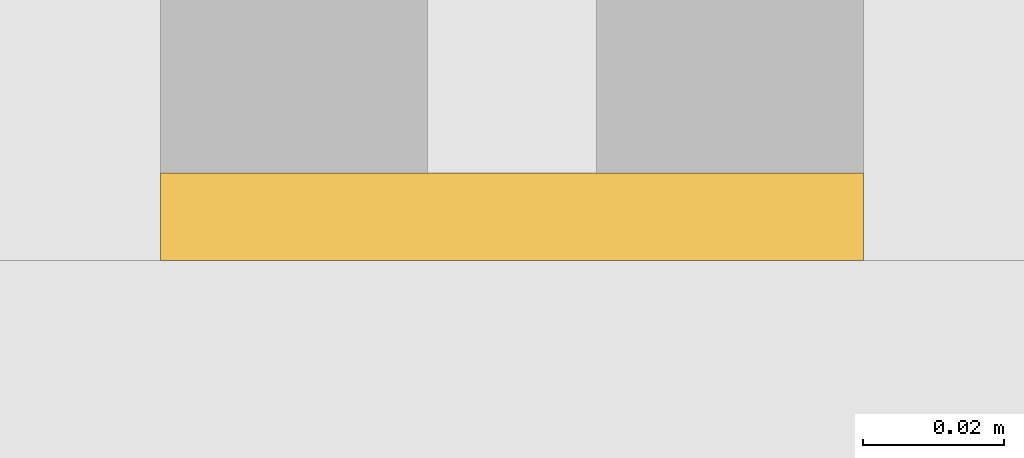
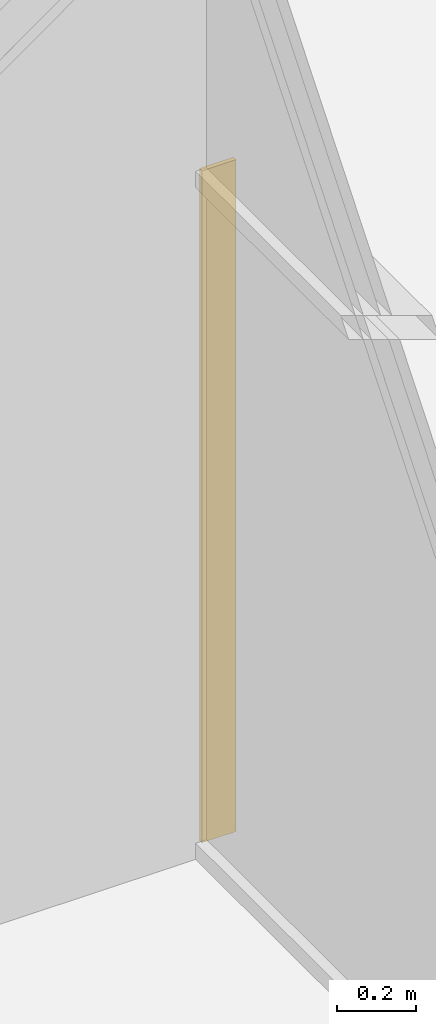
# One storey, part 77 of 100: 1 curtain wall, 1 opening, 1 element without a shape of its own.
"""IFC2X3 building model written with IfcOpenShell, lengths in millimetres."""

from ifc_helpers import new_model, entity, si_unit, converted_unit, derived_unit, direction, frame, frame_2d, origin, place, context, subcontext, project, spatial, rectangle, extrude, material, layer, layer_set, layer_usage, type_object, element, aggregate, save


model = new_model("IFC2X3")

# Units and contexts
model_context = context("Model", 3, precision=0.01, world=origin(), true_north=direction((6.123031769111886e-17, 1.0)))
body_context = subcontext(model_context, "Body", "Model", "MODEL_VIEW")
ifc_project = project(units=[si_unit("LENGTHUNIT", "METRE", prefix="MILLI"), si_unit("AREAUNIT", "SQUARE_METRE"), si_unit("VOLUMEUNIT", "CUBIC_METRE"), converted_unit("PLANEANGLEUNIT", "DEGREE", entity("IfcRatioMeasure", 0.017453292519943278), si_unit("PLANEANGLEUNIT", "RADIAN"), dimensions=[0, 0, 0, 0, 0, 0, 0]), si_unit("MASSUNIT", "GRAM", prefix="KILO"), derived_unit("MASSDENSITYUNIT", [(si_unit("MASSUNIT", "GRAM", prefix="KILO"), 1), (si_unit("LENGTHUNIT", "METRE"), -3)]), derived_unit("MOMENTOFINERTIAUNIT", [(si_unit("LENGTHUNIT", "METRE"), 4)]), si_unit("TIMEUNIT", "SECOND"), si_unit("FREQUENCYUNIT", "HERTZ"), si_unit("THERMODYNAMICTEMPERATUREUNIT", "DEGREE_CELSIUS"), derived_unit("THERMALTRANSMITTANCEUNIT", [(si_unit("MASSUNIT", "GRAM", prefix="KILO"), 1), (si_unit("THERMODYNAMICTEMPERATUREUNIT", "KELVIN"), -1), (si_unit("TIMEUNIT", "SECOND"), -3)]), derived_unit("VOLUMETRICFLOWRATEUNIT", [(si_unit("LENGTHUNIT", "METRE"), 3), (si_unit("TIMEUNIT", "SECOND"), -1)]), derived_unit("MASSFLOWRATEUNIT", [(si_unit("MASSUNIT", "GRAM", prefix="KILO"), 1), (si_unit("TIMEUNIT", "SECOND"), -1)]), derived_unit("ROTATIONALFREQUENCYUNIT", [(si_unit("TIMEUNIT", "SECOND"), -1)]), si_unit("ELECTRICCURRENTUNIT", "AMPERE"), si_unit("ELECTRICVOLTAGEUNIT", "VOLT"), si_unit("POWERUNIT", "WATT"), si_unit("FORCEUNIT", "NEWTON", prefix="KILO"), si_unit("ILLUMINANCEUNIT", "LUX"), si_unit("LUMINOUSFLUXUNIT", "LUMEN"), si_unit("LUMINOUSINTENSITYUNIT", "CANDELA"), derived_unit("USERDEFINED", [(si_unit("MASSUNIT", "GRAM", prefix="KILO"), -1), (si_unit("LENGTHUNIT", "METRE"), -2), (si_unit("TIMEUNIT", "SECOND"), 3), (si_unit("LUMINOUSFLUXUNIT", "LUMEN"), 1)]), derived_unit("SOUNDPOWERUNIT", [(si_unit("MASSUNIT", "GRAM", prefix="KILO"), 1), (si_unit("LENGTHUNIT", "METRE"), 2), (si_unit("TIMEUNIT", "SECOND"), -3)]), derived_unit("SOUNDPRESSUREUNIT", [(si_unit("MASSUNIT", "GRAM", prefix="KILO"), 1), (si_unit("LENGTHUNIT", "METRE"), -1), (si_unit("TIMEUNIT", "SECOND"), -2)]), derived_unit("LINEARVELOCITYUNIT", [(si_unit("LENGTHUNIT", "METRE"), 1), (si_unit("TIMEUNIT", "SECOND"), -1)]), si_unit("PRESSUREUNIT", "PASCAL"), derived_unit("USERDEFINED", [(si_unit("LENGTHUNIT", "METRE"), -2), (si_unit("MASSUNIT", "GRAM", prefix="KILO"), 1), (si_unit("TIMEUNIT", "SECOND"), -2)]), derived_unit("LINEARFORCEUNIT", [(si_unit("MASSUNIT", "GRAM", prefix="KILO"), 1), (si_unit("LENGTHUNIT", "METRE"), 1), (si_unit("TIMEUNIT", "SECOND"), -2), (si_unit("LENGTHUNIT", "METRE"), -1)]), derived_unit("PLANARFORCEUNIT", [(si_unit("MASSUNIT", "GRAM", prefix="KILO"), 1), (si_unit("LENGTHUNIT", "METRE"), 1), (si_unit("TIMEUNIT", "SECOND"), -2), (si_unit("LENGTHUNIT", "METRE"), -2)])], contexts=[model_context])

# Site, building, storey
site_placement = place(None, frame((-14167.972527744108, -657.2125860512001, 0.0)))
site = spatial("IfcSite", under=ifc_project, at=site_placement, Name="Default", CompositionType="ELEMENT")
building_placement = place(site_placement, origin())
building = spatial("IfcBuilding", under=site, at=building_placement, Name="Sample Building", CompositionType="ELEMENT")
storey_placement = place(building_placement, origin())
storey = spatial("IfcBuildingStorey", under=building, at=storey_placement, Name="지상 1층", CompositionType="ELEMENT", Elevation=0.0)

# Curtain walls, opening
curtain_wall_type_1 = type_object("IfcCurtainWallType", Name="커튼월:CW112-스테인리스 스틸 커튼월", PredefinedType="NOTDEFINED")
curtain_wall_1_placement = place(storey_placement, origin())
curtain_wall_1 = element("IfcCurtainWall", 1, at=curtain_wall_1_placement, inside=storey, type_object=curtain_wall_type_1, Name="커튼월:CW112-스테인리스 스틸 커튼월", ObjectType="커튼월:CW112-스테인리스 스틸 커튼월")
ifc_material = material(Name="KBIMS-콘크리트")
ifc_layer = layer(ifc_material, 100.0)
ifc_layer_set = layer_set([ifc_layer], Name="커튼월:CW112-스테인리스 스틸 커튼월")
ifc_layer_usage = layer_usage(ifc_layer_set, "AXIS2", "NEGATIVE", 50.0)
curtain_wall_type_2 = type_object("IfcCurtainWallType", Name="기본 벽:WA111-철근콘크리트구조 벽 100mm", PredefinedType="NOTDEFINED", material=ifc_layer_set)
curtain_wall_2_placement = place(storey_placement, frame((27522.955141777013, 23632.177624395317, 80.0), z_axis=(0.0, 0.0, 1.0), x_axis=(0.0, 1.0, 0.0)))
curtain_wall_2 = element("IfcCurtainWall", 2, at=curtain_wall_2_placement, type_object=curtain_wall_type_2, material=ifc_layer_usage, Name="기본 벽:WA111-철근콘크리트구조 벽 100mm", ObjectType="기본 벽:WA111-철근콘크리트구조 벽 100mm", context=body_context, shape_type="SweptSolid", body=[
    extrude(rectangle(XDim=12.400275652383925, YDim=99.99999999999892, at=frame_2d((0.0, -2.1671553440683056e-12), x_axis=(1.0, 0.0))), frame((6.200137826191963, 0.0, 0.0)), (0.0, 0.0, 1.0), 2075.0),
])
opening_placement = place(curtain_wall_2_placement, frame((12.400275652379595, -50.0, -25.0)))
element("IfcOpeningElement", 3, at=opening_placement, cuts=curtain_wall_2, Name="DR111-외여닫이문(철재, 일반, 양개):DR111-외여닫이문(유리, 일반, 양개) 950x2100mm:1", ObjectType="Opening", context=body_context, shape_type="SweptSolid", body=[
    extrude(rectangle(XDim=2099.9999999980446, YDim=949.9999999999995, at=frame_2d((1049.9999999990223, 474.9999999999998), x_axis=(1.0, 0.0))), frame((0.0, 0.0, 0.0), z_axis=(0.0, 1.0, 0.0), x_axis=(0.0, 0.0, 1.0)), (0.0, 0.0, 1.0), 100.0),
])
aggregate(curtain_wall_1, [curtain_wall_2])

save(model, "model.ifc")
